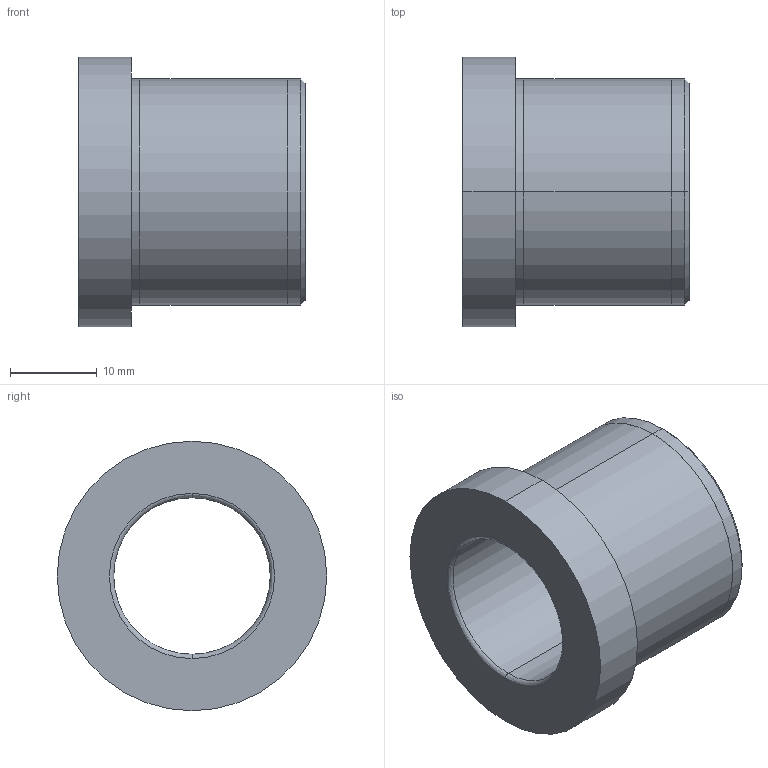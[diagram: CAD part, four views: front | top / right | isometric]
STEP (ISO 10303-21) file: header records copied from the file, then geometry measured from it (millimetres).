
FILE_DESCRIPTION( ( 'STEP AP203' ), '1' );
FILE_NAME( 'D:/Delta 3 D/D20/D20 - 18x26.step', '2002-12-31T23:35:00', ( ' ' ), ( ' ' ), 'XStep 1.0', ' ', ' ' );
FILE_SCHEMA( ( 'CONFIG_CONTROL_DESIGN' ) );
Length unit declared in the file: metre
Products named in the file (1): 1
Bounding box: 26 x 31 x 31 mm (x, y, z)
Volume: 8528.7 mm3; surface area: 4643.2 mm2
Topology: 1 solids, 1 shells, 21 faces, 42 edges, 26 vertices
Faces by surface type: revolution 12, bspline 9
Entity records: 671 total; most frequent: CARTESIAN_POINT 201, ORIENTED_EDGE 84, DIRECTION 78, EDGE_CURVE 42, AXIS2_PLACEMENT_3D 27, EDGE_LOOP 26, VERTEX_POINT 26, CIRCLE 26
